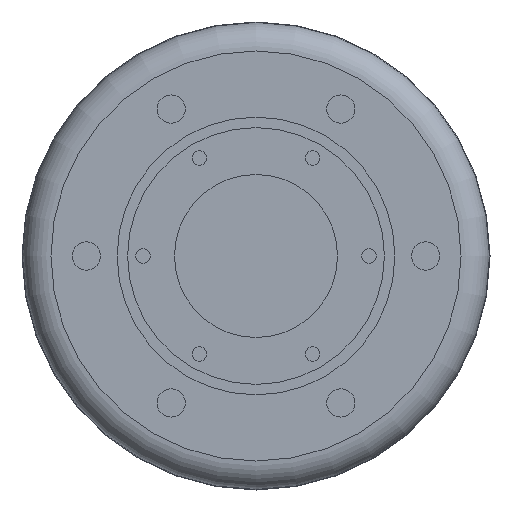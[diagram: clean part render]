
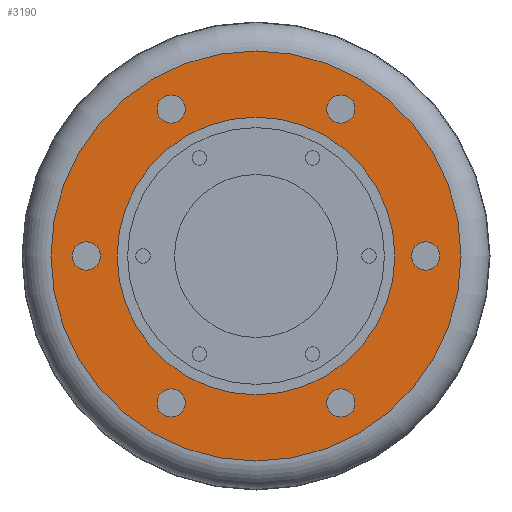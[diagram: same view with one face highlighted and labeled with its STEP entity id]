
A CAD part, front view. The second image highlights one B-rep face of the part: STEP entity #3190.
In plain terms, the highlighted planar face has unit normal (0, -1, 0).
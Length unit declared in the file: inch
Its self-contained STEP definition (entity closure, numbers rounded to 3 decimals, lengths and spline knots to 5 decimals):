
#224 = DIRECTION ( 'NONE',  ( 0., -1., 0. ) ) ;
#230 = DIRECTION ( 'NONE',  ( 0., 0., 1. ) ) ;
#232 = CARTESIAN_POINT ( 'NONE',  ( 0., 0., 0. ) ) ;
#239 = CARTESIAN_POINT ( 'NONE',  ( 0.75, 0., -1.29904 ) ) ;
#242 = DIRECTION ( 'NONE',  ( -0.866, 0., -0.5 ) ) ;
#243 = DIRECTION ( 'NONE',  ( 0., -1., 0. ) ) ;
#345 = CARTESIAN_POINT ( 'NONE',  ( 0., 0., 0. ) ) ;
#346 = DIRECTION ( 'NONE',  ( 0., 1., 0. ) ) ;
#347 = DIRECTION ( 'NONE',  ( 0., 0., 1. ) ) ;
#406 = CARTESIAN_POINT ( 'NONE',  ( -0.75, 0., 1.29904 ) ) ;
#407 = DIRECTION ( 'NONE',  ( 0., -1., 0. ) ) ;
#408 = DIRECTION ( 'NONE',  ( 0.866, 0., 0.5 ) ) ;
#436 = CARTESIAN_POINT ( 'NONE',  ( 0.75, 0., 1.29904 ) ) ;
#437 = DIRECTION ( 'NONE',  ( 0., -1., 0. ) ) ;
#438 = DIRECTION ( 'NONE',  ( 0.866, 0., -0.5 ) ) ;
#442 = CARTESIAN_POINT ( 'NONE',  ( 1.5, 0., 0. ) ) ;
#443 = DIRECTION ( 'NONE',  ( 0., -1., 0. ) ) ;
#444 = DIRECTION ( 'NONE',  ( 0., 0., -1. ) ) ;
#463 = CARTESIAN_POINT ( 'NONE',  ( -0.75, 0., -1.29904 ) ) ;
#464 = DIRECTION ( 'NONE',  ( 0., -1., 0. ) ) ;
#465 = DIRECTION ( 'NONE',  ( -0.866, 0., 0.5 ) ) ;
#1339 = AXIS2_PLACEMENT_3D ( 'NONE', #3626, #3687, #3628 ) ;
#1429 = AXIS2_PLACEMENT_3D ( 'NONE', #3135, #3151, #3164 ) ;
#1444 = AXIS2_PLACEMENT_3D ( 'NONE', #463, #464, #465 ) ;
#1455 = EDGE_CURVE ( 'NONE', #2716, #2716, #2270, .T. ) ;
#1456 = AXIS2_PLACEMENT_3D ( 'NONE', #232, #224, #230 ) ;
#1495 = EDGE_CURVE ( 'NONE', #2753, #2753, #2229, .T. ) ;
#1504 = EDGE_CURVE ( 'NONE', #2762, #2762, #2220, .T. ) ;
#1536 = EDGE_CURVE ( 'NONE', #2775, #2775, #2207, .T. ) ;
#1547 = AXIS2_PLACEMENT_3D ( 'NONE', #239, #243, #242 ) ;
#1556 = EDGE_CURVE ( 'NONE', #2785, #2785, #2197, .T. ) ;
#1559 = EDGE_CURVE ( 'NONE', #2787, #2787, #2195, .T. ) ;
#1562 = AXIS2_PLACEMENT_3D ( 'NONE', #442, #443, #444 ) ;
#1566 = AXIS2_PLACEMENT_3D ( 'NONE', #406, #407, #408 ) ;
#1575 = EDGE_CURVE ( 'NONE', #2794, #2794, #2188, .T. ) ;
#1582 = AXIS2_PLACEMENT_3D ( 'NONE', #345, #346, #347 ) ;
#1606 = EDGE_CURVE ( 'NONE', #2808, #2808, #2173, .T. ) ;
#1631 = AXIS2_PLACEMENT_3D ( 'NONE', #436, #437, #438 ) ;
#1840 = CARTESIAN_POINT ( 'NONE',  ( 0., 0., 1.8125 ) ) ;
#1883 = CARTESIAN_POINT ( 'NONE',  ( 0.64175, 0., -1.36154 ) ) ;
#1892 = CARTESIAN_POINT ( 'NONE',  ( 0., 0., 1.227 ) ) ;
#1905 = CARTESIAN_POINT ( 'NONE',  ( -0.64175, 0., 1.36154 ) ) ;
#1915 = CARTESIAN_POINT ( 'NONE',  ( 0.85825, 0., 1.23654 ) ) ;
#1917 = CARTESIAN_POINT ( 'NONE',  ( 1.5, 0., -0.125 ) ) ;
#1924 = CARTESIAN_POINT ( 'NONE',  ( -0.85825, 0., -1.23654 ) ) ;
#1938 = CARTESIAN_POINT ( 'NONE',  ( -1.5, 0., 0.125 ) ) ;
#2078 = FACE_OUTER_BOUND ( 'NONE', #2314, .T. ) ;
#2079 = FACE_BOUND ( 'NONE', #2315, .T. ) ;
#2080 = FACE_BOUND ( 'NONE', #2316, .T. ) ;
#2081 = FACE_BOUND ( 'NONE', #2323, .T. ) ;
#2082 = FACE_BOUND ( 'NONE', #2317, .T. ) ;
#2084 = FACE_BOUND ( 'NONE', #2319, .T. ) ;
#2085 = FACE_BOUND ( 'NONE', #2318, .T. ) ;
#2087 = FACE_BOUND ( 'NONE', #2404, .T. ) ;
#2173 = CIRCLE ( 'NONE', #1429, 0.125 ) ;
#2188 = CIRCLE ( 'NONE', #1444, 0.125 ) ;
#2195 = CIRCLE ( 'NONE', #1562, 0.125 ) ;
#2197 = CIRCLE ( 'NONE', #1631, 0.125 ) ;
#2207 = CIRCLE ( 'NONE', #1566, 0.125 ) ;
#2220 = CIRCLE ( 'NONE', #1582, 1.227 ) ;
#2229 = CIRCLE ( 'NONE', #1547, 0.125 ) ;
#2270 = CIRCLE ( 'NONE', #1456, 1.8125 ) ;
#2314 = EDGE_LOOP ( 'NONE', ( #3023 ) ) ;
#2315 = EDGE_LOOP ( 'NONE', ( #3103 ) ) ;
#2316 = EDGE_LOOP ( 'NONE', ( #3062 ) ) ;
#2317 = EDGE_LOOP ( 'NONE', ( #3032 ) ) ;
#2318 = EDGE_LOOP ( 'NONE', ( #3067 ) ) ;
#2319 = EDGE_LOOP ( 'NONE', ( #3101 ) ) ;
#2323 = EDGE_LOOP ( 'NONE', ( #3051 ) ) ;
#2404 = EDGE_LOOP ( 'NONE', ( #3116 ) ) ;
#2716 = VERTEX_POINT ( 'NONE', #1840 ) ;
#2753 = VERTEX_POINT ( 'NONE', #1883 ) ;
#2762 = VERTEX_POINT ( 'NONE', #1892 ) ;
#2775 = VERTEX_POINT ( 'NONE', #1905 ) ;
#2785 = VERTEX_POINT ( 'NONE', #1915 ) ;
#2787 = VERTEX_POINT ( 'NONE', #1917 ) ;
#2794 = VERTEX_POINT ( 'NONE', #1924 ) ;
#2808 = VERTEX_POINT ( 'NONE', #1938 ) ;
#3023 = ORIENTED_EDGE ( 'NONE', *, *, #1455, .T. ) ;
#3032 = ORIENTED_EDGE ( 'NONE', *, *, #1536, .F. ) ;
#3051 = ORIENTED_EDGE ( 'NONE', *, *, #1575, .F. ) ;
#3062 = ORIENTED_EDGE ( 'NONE', *, *, #1559, .F. ) ;
#3067 = ORIENTED_EDGE ( 'NONE', *, *, #1556, .F. ) ;
#3101 = ORIENTED_EDGE ( 'NONE', *, *, #1606, .F. ) ;
#3103 = ORIENTED_EDGE ( 'NONE', *, *, #1504, .T. ) ;
#3116 = ORIENTED_EDGE ( 'NONE', *, *, #1495, .F. ) ;
#3135 = CARTESIAN_POINT ( 'NONE',  ( -1.5, 0., 0. ) ) ;
#3151 = DIRECTION ( 'NONE',  ( 0., -1., 0. ) ) ;
#3164 = DIRECTION ( 'NONE',  ( 0., 0., 1. ) ) ;
#3190 = ADVANCED_FACE ( 'NONE', ( #2087, #2081, #2084, #2082, #2085, #2080, #2079, #2078 ), #3668, .F. ) ;
#3626 = CARTESIAN_POINT ( 'NONE',  ( -2.0625, 0., 0. ) ) ;
#3628 = DIRECTION ( 'NONE',  ( 0., 0., 1. ) ) ;
#3668 = PLANE ( 'NONE',  #1339 ) ;
#3687 = DIRECTION ( 'NONE',  ( 0., 1., 0. ) ) ;
